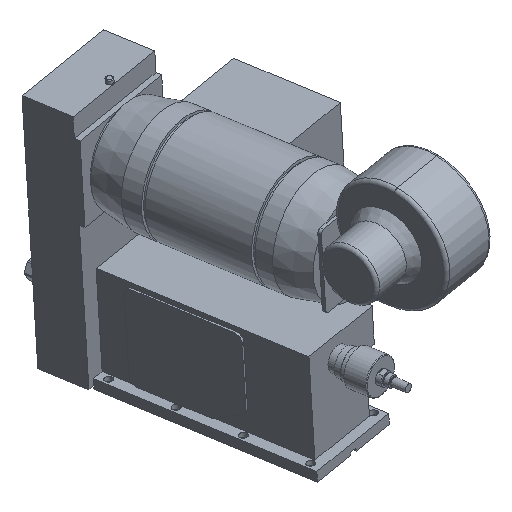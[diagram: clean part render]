
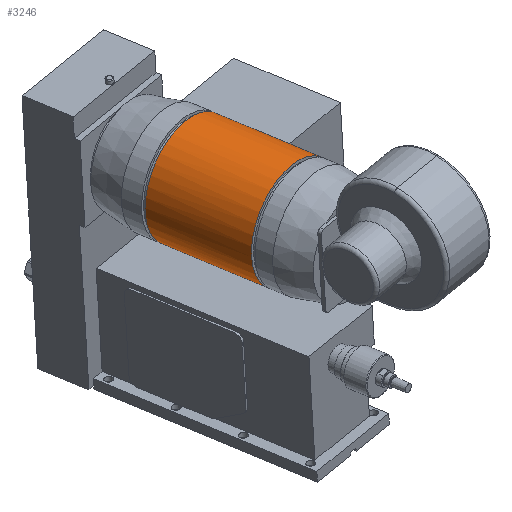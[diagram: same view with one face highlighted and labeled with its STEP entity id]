
A CAD part, isometric view. The second image highlights one B-rep face of the part: STEP entity #3246.
In plain terms, the highlighted cylindrical face has radius 79 mm (diameter 158 mm), a full revolution.
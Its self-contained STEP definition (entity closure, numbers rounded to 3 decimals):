
#2827=CARTESIAN_POINT('',(207.864,41.01,223.256));
#2828=VERTEX_POINT('',#2827);
#2829=CARTESIAN_POINT('',(202.56,43.657,343.11));
#2830=VERTEX_POINT('',#2829);
#2831=CARTESIAN_POINT('',(154.302,35.644,281.077));
#2832=DIRECTION('',(0.129,-0.991,0.028));
#2833=DIRECTION('',(0.991,0.13,0.041));
#2834=AXIS2_PLACEMENT_3D('',#2831,#2832,#2833);
#2835=CIRCLE('',#2834,79.0);
#2836=EDGE_CURVE('',#2828,#2830,#2835,.T.);
#2868=CARTESIAN_POINT('',(194.109,146.616,220.316));
#2869=VERTEX_POINT('',#2868);
#2870=CARTESIAN_POINT('',(194.109,146.616,220.316));
#2871=DIRECTION('',(0.129,-0.991,0.028));
#2872=VECTOR('',#2871,106.538);
#2873=LINE('',#2870,#2872);
#2874=EDGE_CURVE('',#2869,#2828,#2873,.T.);
#2978=CARTESIAN_POINT('',(188.804,149.262,340.169));
#2979=VERTEX_POINT('',#2978);
#2980=CARTESIAN_POINT('',(202.56,43.657,343.11));
#2981=DIRECTION('',(-0.129,0.991,-0.028));
#2982=VECTOR('',#2981,106.538);
#2983=LINE('',#2980,#2982);
#2984=EDGE_CURVE('',#2830,#2979,#2983,.T.);
#3068=CARTESIAN_POINT('',(140.547,141.249,278.137));
#3069=DIRECTION('',(0.129,-0.991,0.028));
#3070=DIRECTION('',(0.991,0.13,0.041));
#3071=AXIS2_PLACEMENT_3D('',#3068,#3069,#3070);
#3072=CIRCLE('',#3071,79.);
#3073=EDGE_CURVE('',#2979,#2869,#3072,.T.);
#3160=CARTESIAN_POINT('',(238.174,2.846,285.514));
#3161=VERTEX_POINT('',#3160);
#3162=CARTESIAN_POINT('',(159.913,-7.438,282.277));
#3163=DIRECTION('',(0.129,-0.991,0.028));
#3164=DIRECTION('',(0.991,0.13,0.041));
#3165=AXIS2_PLACEMENT_3D('',#3162,#3163,#3164);
#3166=CIRCLE('',#3165,79.);
#3167=EDGE_CURVE('',#3161,#3161,#3166,.T.);
#3232=CARTESIAN_POINT('',(150.23,66.906,280.207));
#3233=DIRECTION('',(0.129,-0.991,0.028));
#3234=DIRECTION('',(0.991,0.13,0.041));
#3235=AXIS2_PLACEMENT_3D('',#3232,#3233,#3234);
#3236=CYLINDRICAL_SURFACE('',#3235,79.0);
#3237=ORIENTED_EDGE('',*,*,#2984,.T.);
#3238=ORIENTED_EDGE('',*,*,#3073,.T.);
#3239=ORIENTED_EDGE('',*,*,#2874,.T.);
#3240=ORIENTED_EDGE('',*,*,#2836,.T.);
#3241=EDGE_LOOP('',(#3237,#3238,#3239,#3240));
#3242=FACE_OUTER_BOUND('',#3241,.T.);
#3243=ORIENTED_EDGE('',*,*,#3167,.F.);
#3244=EDGE_LOOP('',(#3243));
#3245=FACE_BOUND('',#3244,.T.);
#3246=ADVANCED_FACE('',(#3242,#3245),#3236,.T.);
